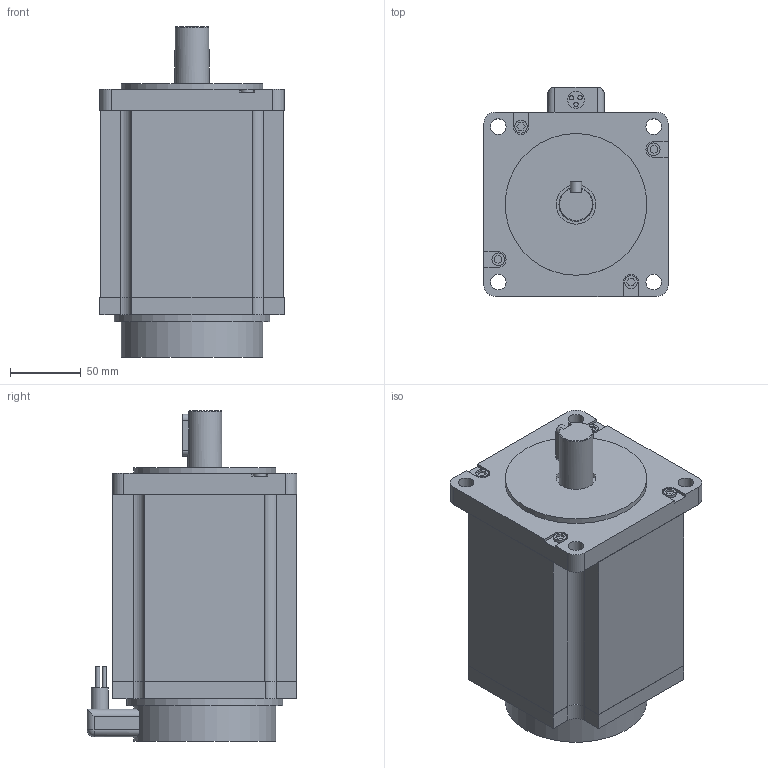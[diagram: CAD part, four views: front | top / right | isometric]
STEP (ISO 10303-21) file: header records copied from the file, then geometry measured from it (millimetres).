
FILE_DESCRIPTION(/* description */ (''),/* implementation_level */ '2;1');
FILE_NAME(/* name */ 'STC-130E68-03189.stp',/* time_stamp */ '2018-08-21T09:05:57+08:00',/* author */ (''),/* organization */ (''),/* preprocessor_version */ 'ST-DEVELOPER v11',/* originating_system */ 'SIEMENS UGS NX 6.0',/* authorisation */ '');
FILE_SCHEMA (('CONFIG_CONTROL_DESIGN'));
Length unit declared in the file: millimetre
Products named in the file (1): STC-130E68-03189
Bounding box: 130 x 148 x 233 mm (x, y, z)
Volume: 2710361.7 mm3; surface area: 136414.9 mm2
Topology: 2 solids, 2 shells, 145 faces, 363 edges, 240 vertices
Faces by surface type: plane 98, cylinder 44, sphere 2, torus 1
Full cylindrical faces by diameter (mm): 3 x3, 9 x4, 11 x4, 12 x1, 24 x1, 28 x1, 100 x2, 110 x1
Entity records: 4321 total; most frequent: CARTESIAN_POINT 799, DIRECTION 704, ORIENTED_EDGE 674, EDGE_CURVE 337, LINE 246, VECTOR 246, VERTEX_POINT 233, AXIS2_PLACEMENT_3D 229
